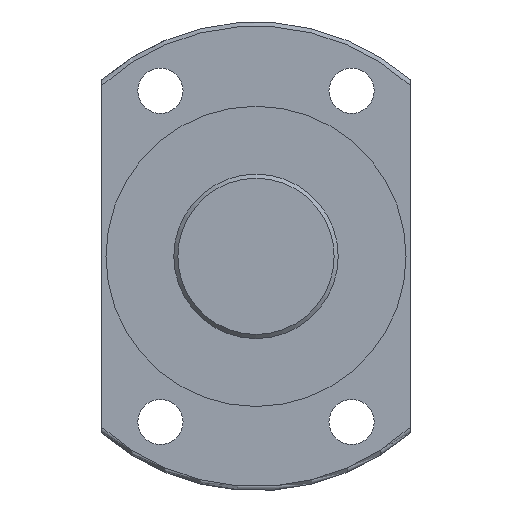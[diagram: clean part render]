
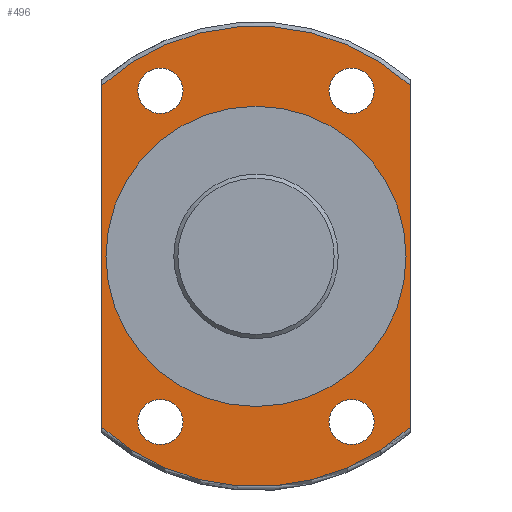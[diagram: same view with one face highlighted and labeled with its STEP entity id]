
A CAD part, left-side view. The second image highlights one B-rep face of the part: STEP entity #496.
In plain terms, the highlighted planar face has unit normal (-1, 0, 0).
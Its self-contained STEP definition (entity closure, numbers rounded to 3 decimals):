
#64=PLANE('',#564);
#90=LINE('',#827,#98);
#92=LINE('',#860,#100);
#98=VECTOR('',#649,1000.);
#100=VECTOR('',#653,1000.);
#154=ORIENTED_EDGE('',*,*,#241,.F.);
#155=ORIENTED_EDGE('',*,*,#255,.F.);
#156=ORIENTED_EDGE('',*,*,#248,.T.);
#157=ORIENTED_EDGE('',*,*,#254,.F.);
#158=ORIENTED_EDGE('',*,*,#236,.F.);
#159=ORIENTED_EDGE('',*,*,#234,.F.);
#160=ORIENTED_EDGE('',*,*,#232,.F.);
#161=ORIENTED_EDGE('',*,*,#230,.F.);
#162=ORIENTED_EDGE('',*,*,#256,.T.);
#230=EDGE_CURVE('',#288,#288,#327,.T.);
#232=EDGE_CURVE('',#290,#290,#329,.T.);
#234=EDGE_CURVE('',#292,#292,#331,.T.);
#236=EDGE_CURVE('',#294,#294,#333,.T.);
#241=EDGE_CURVE('',#299,#300,#90,.T.);
#248=EDGE_CURVE('',#305,#304,#92,.T.);
#254=EDGE_CURVE('',#300,#304,#337,.T.);
#255=EDGE_CURVE('',#305,#299,#338,.T.);
#256=EDGE_CURVE('',#308,#308,#339,.T.);
#288=VERTEX_POINT('',#793);
#290=VERTEX_POINT('',#798);
#292=VERTEX_POINT('',#803);
#294=VERTEX_POINT('',#808);
#299=VERTEX_POINT('',#826);
#300=VERTEX_POINT('',#828);
#304=VERTEX_POINT('',#859);
#305=VERTEX_POINT('',#861);
#308=VERTEX_POINT('',#880);
#327=CIRCLE('',#545,5.5);
#329=CIRCLE('',#548,5.5);
#331=CIRCLE('',#551,5.5);
#333=CIRCLE('',#554,5.5);
#337=CIRCLE('',#563,56.);
#338=CIRCLE('',#565,56.);
#339=CIRCLE('',#566,36.5);
#375=EDGE_LOOP('',(#154,#155,#156,#157));
#376=EDGE_LOOP('',(#158));
#377=EDGE_LOOP('',(#159));
#378=EDGE_LOOP('',(#160));
#379=EDGE_LOOP('',(#161));
#380=EDGE_LOOP('',(#162));
#434=FACE_BOUND('',#375,.T.);
#435=FACE_BOUND('',#376,.T.);
#436=FACE_BOUND('',#377,.T.);
#437=FACE_BOUND('',#378,.T.);
#438=FACE_BOUND('',#379,.T.);
#439=FACE_BOUND('',#380,.T.);
#496=ADVANCED_FACE('',(#434,#435,#436,#437,#438,#439),#64,.T.);
#545=AXIS2_PLACEMENT_3D('',#792,#625,#626);
#548=AXIS2_PLACEMENT_3D('',#797,#631,#632);
#551=AXIS2_PLACEMENT_3D('',#802,#637,#638);
#554=AXIS2_PLACEMENT_3D('',#807,#643,#644);
#563=AXIS2_PLACEMENT_3D('',#876,#667,#668);
#564=AXIS2_PLACEMENT_3D('',#877,#669,#670);
#565=AXIS2_PLACEMENT_3D('',#878,#671,#672);
#566=AXIS2_PLACEMENT_3D('',#879,#673,#674);
#625=DIRECTION('',(-1.,0.,0.));
#626=DIRECTION('',(0.,-1.,0.));
#631=DIRECTION('',(-1.,0.,0.));
#632=DIRECTION('',(0.,-1.,0.));
#637=DIRECTION('',(-1.,0.,0.));
#638=DIRECTION('',(0.,-1.,0.));
#643=DIRECTION('',(-1.,0.,0.));
#644=DIRECTION('',(0.,-1.,0.));
#649=DIRECTION('',(0.,0.,1.));
#653=DIRECTION('',(0.,0.,1.));
#667=DIRECTION('',(1.,0.,0.));
#668=DIRECTION('',(0.,1.,0.));
#669=DIRECTION('',(-1.,0.,0.));
#670=DIRECTION('',(0.,-1.,0.));
#671=DIRECTION('',(1.,0.,0.));
#672=DIRECTION('',(0.,1.,0.));
#673=DIRECTION('',(1.,0.,0.));
#674=DIRECTION('',(0.,-1.,0.));
#792=CARTESIAN_POINT('',(54.446,74.447,-40.27));
#793=CARTESIAN_POINT('',(54.446,68.947,-40.27));
#797=CARTESIAN_POINT('',(54.446,27.947,-40.27));
#798=CARTESIAN_POINT('',(54.446,22.447,-40.27));
#802=CARTESIAN_POINT('',(54.446,27.947,40.27));
#803=CARTESIAN_POINT('',(54.446,22.447,40.27));
#807=CARTESIAN_POINT('',(54.446,74.447,40.27));
#808=CARTESIAN_POINT('',(54.446,68.947,40.27));
#826=CARTESIAN_POINT('',(54.446,88.697,-41.59));
#827=CARTESIAN_POINT('',(54.446,88.697,0.));
#828=CARTESIAN_POINT('',(54.446,88.697,41.59));
#859=CARTESIAN_POINT('',(54.446,13.697,41.59));
#860=CARTESIAN_POINT('',(54.446,13.697,0.));
#861=CARTESIAN_POINT('',(54.446,13.697,-41.59));
#876=CARTESIAN_POINT('',(54.446,51.197,0.));
#877=CARTESIAN_POINT('',(54.446,107.197,0.));
#878=CARTESIAN_POINT('',(54.446,51.197,0.));
#879=CARTESIAN_POINT('',(54.446,51.197,0.));
#880=CARTESIAN_POINT('',(54.446,14.697,0.));
